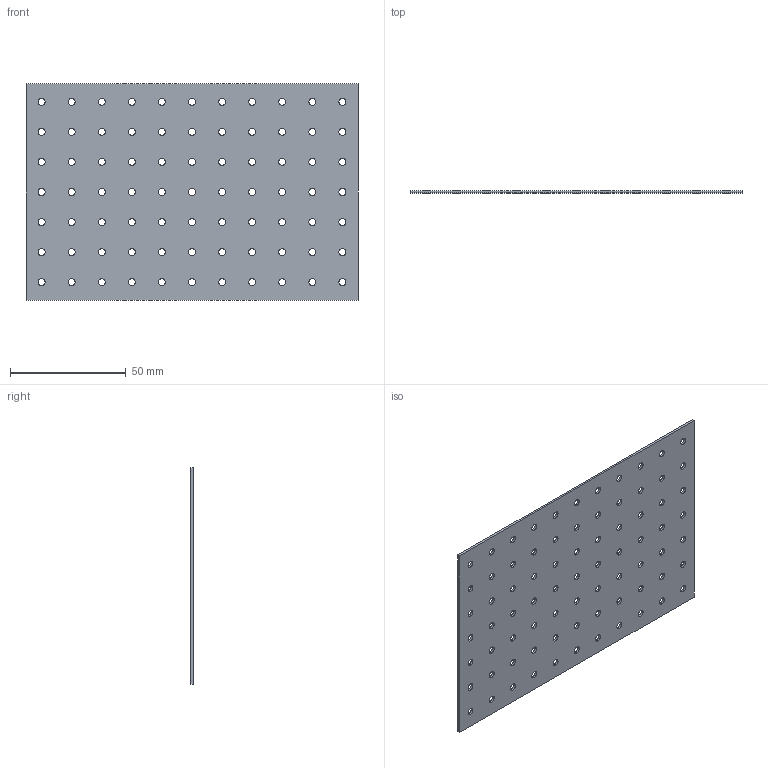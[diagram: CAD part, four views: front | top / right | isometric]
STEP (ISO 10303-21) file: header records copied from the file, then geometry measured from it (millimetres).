
FILE_DESCRIPTION (( 'STEP AP203' ), '1' );
FILE_NAME ('VM00101.STEP', '2016-07-05T06:04:49', ( '' ), ( '' ), 'SwSTEP 2.0', 'SolidWorks 2016', '' );
FILE_SCHEMA (( 'CONFIG_CONTROL_DESIGN' ));
Length unit declared in the file: millimetre
Products named in the file (1): VM00101
Bounding box: 143.5 x 1 x 93.5 mm (x, y, z)
Volume: 12873 mm3; surface area: 26945.6 mm2
Topology: 1 solids, 1 shells, 160 faces, 474 edges, 316 vertices
Faces by surface type: cylinder 154, plane 6
Entity records: 5931 total; most frequent: DIRECTION 1104, CARTESIAN_POINT 951, ORIENTED_EDGE 948, EDGE_CURVE 474, AXIS2_PLACEMENT_3D 469, VERTEX_POINT 316, EDGE_LOOP 314, CIRCLE 308
